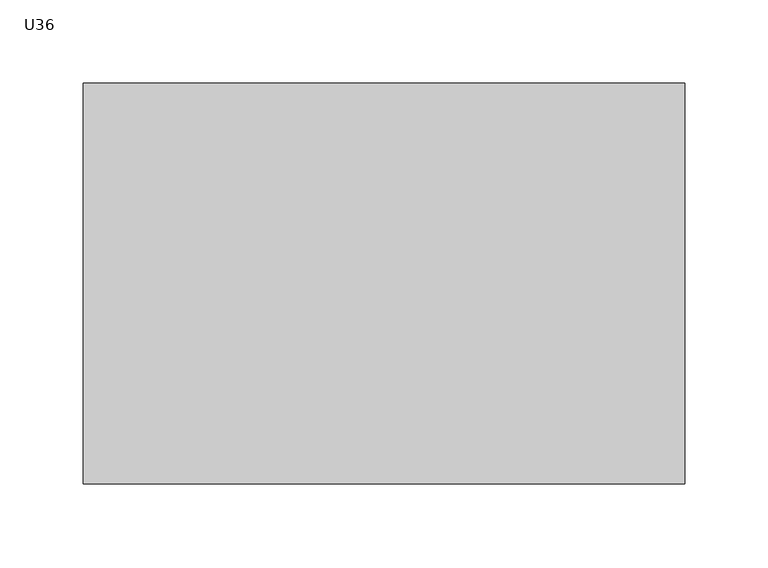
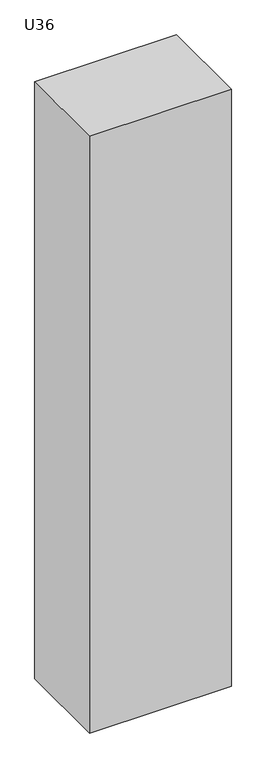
"""IFC4 building model written with IfcOpenShell, lengths in millimetres: column geometry, U36_slup : U36."""

from ifc_helpers import new_model, si_unit, origin, origin_with_axes, place, context, project, spatial, polyline, outline, extrude, source, transform, mapped, element, save


def u36_f8813260(model_context):
    return source(origin(), model_context, "Body", "SweptSolid", [
        extrude(outline(polyline([(-180.0, -120.0), (-180.0, 120.0), (180.0, 120.0), (180.0, -120.0), (-180.0, -120.0)])), origin_with_axes(), (0.0, 0.0, 1.0), 1600.0),
    ])


if __name__ == "__main__":
    model = new_model("IFC4")
    model_context = context("Model", 3, world=origin())
    ifc_project = project(units=[si_unit("LENGTHUNIT", "METRE", prefix="MILLI")], contexts=[model_context])
    site = spatial("IfcSite", under=ifc_project)
    building = spatial("IfcBuilding", under=site)
    placement = place(None, origin())
    u36_shape = u36_f8813260(model_context)
    element("IfcColumn", 1, ObjectType="U36_slup : U36", at=placement, inside=building, context=model_context, shape_type="MappedRepresentation", body=[
        mapped(u36_shape, transform((0.0, 0.0, 0.0), x_axis=(1.0, 0.0, 0.0), y_axis=(0.0, 1.0, 0.0), z_axis=(0.0, 0.0, 1.0))),
    ])
    save(model, "model.ifc")
